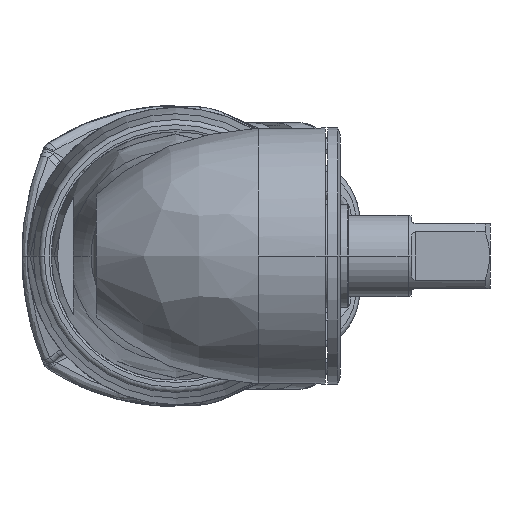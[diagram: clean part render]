
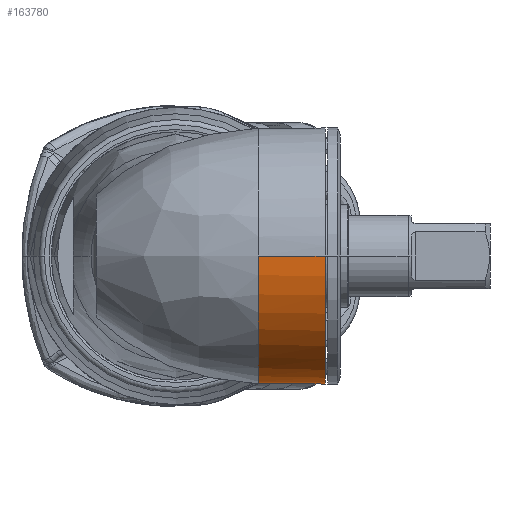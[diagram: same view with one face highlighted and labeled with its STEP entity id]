
A CAD part, left-side view. The second image highlights one B-rep face of the part: STEP entity #163780.
In plain terms, the highlighted cylindrical face has radius 25 mm (diameter 50 mm), a partial arc.
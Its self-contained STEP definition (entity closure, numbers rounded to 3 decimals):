
#162538=CARTESIAN_POINT('',(-149.53,-16.139,
-11.837));
#162607=CARTESIAN_POINT('',(-146.55,-21.5,
0.));
#162609=DIRECTION('',(0.,-1.,0.));
#162610=VECTOR('',#162609,7.7);
#162611=CARTESIAN_POINT('',(-146.55,-21.5,
0.));
#162612=LINE('',#162611,#162610);
#162639=DIRECTION('',(0.,-1.,0.));
#162640=VECTOR('',#162639,13.061);
#162641=CARTESIAN_POINT('',(-196.55,-16.139,0.));
#162642=LINE('',#162641,#162640);
#162668=CARTESIAN_POINT('',(-196.55,-16.139,0.));
#162669=CARTESIAN_POINT('',(-196.55,-16.139,-1.051));
#162670=CARTESIAN_POINT('',(-196.417,-16.139,
-3.153));
#162671=CARTESIAN_POINT('',(-195.823,-16.139,
-6.255));
#162672=CARTESIAN_POINT('',(-194.844,-16.139,
-9.259));
#162673=CARTESIAN_POINT('',(-193.494,-16.139,
-12.115));
#162674=CARTESIAN_POINT('',(-191.796,-16.139,
-14.779));
#162675=CARTESIAN_POINT('',(-189.776,-16.139,
-17.208));
#162676=CARTESIAN_POINT('',(-187.467,-16.139,
-19.364));
#162677=CARTESIAN_POINT('',(-184.905,-16.139,
-21.212));
#162678=CARTESIAN_POINT('',(-182.131,-16.139,
-22.724));
#162679=CARTESIAN_POINT('',(-179.189,-16.139,
-23.874));
#162680=CARTESIAN_POINT('',(-176.126,-16.139,
-24.645));
#162681=CARTESIAN_POINT('',(-172.99,-16.139,
-25.025));
#162682=CARTESIAN_POINT('',(-169.831,-16.139,
-25.007));
#162683=CARTESIAN_POINT('',(-166.699,-16.139,
-24.592));
#162684=CARTESIAN_POINT('',(-163.644,-16.139,
-23.787));
#162685=CARTESIAN_POINT('',(-160.715,-16.139,
-22.604));
#162686=CARTESIAN_POINT('',(-157.958,-16.139,
-21.061));
#162687=CARTESIAN_POINT('',(-155.417,-16.139,
-19.185));
#162688=CARTESIAN_POINT('',(-153.132,-16.139,
-17.003));
#162689=CARTESIAN_POINT('',(-151.14,-16.138,
-14.551));
#162690=CARTESIAN_POINT('',(-150.028,-16.139,
-12.763));
#162691=CARTESIAN_POINT('',(-149.53,-16.139,
-11.837));
#162693=CARTESIAN_POINT('',(-196.55,-29.2,0.));
#162694=CARTESIAN_POINT('',(-196.55,-29.2,-1.158));
#162695=CARTESIAN_POINT('',(-196.389,-29.2,
-3.489));
#162696=CARTESIAN_POINT('',(-195.648,-29.2,
-6.969));
#162697=CARTESIAN_POINT('',(-194.409,-29.2,
-10.333));
#162698=CARTESIAN_POINT('',(-192.697,-29.2,
-13.495));
#162699=CARTESIAN_POINT('',(-190.556,-29.2,
-16.373));
#162700=CARTESIAN_POINT('',(-188.027,-29.2,
-18.915));
#162701=CARTESIAN_POINT('',(-185.157,-29.2,
-21.075));
#162702=CARTESIAN_POINT('',(-182.006,-29.2,
-22.803));
#162703=CARTESIAN_POINT('',(-178.643,-29.2,
-24.062));
#162704=CARTESIAN_POINT('',(-175.134,-29.2,
-24.828));
#162705=CARTESIAN_POINT('',(-171.551,-29.2,
-25.086));
#162706=CARTESIAN_POINT('',(-167.968,-29.2,
-24.829));
#162707=CARTESIAN_POINT('',(-164.459,-29.2,
-24.063));
#162708=CARTESIAN_POINT('',(-161.095,-29.2,
-22.803));
#162709=CARTESIAN_POINT('',(-157.944,-29.2,
-21.076));
#162710=CARTESIAN_POINT('',(-155.074,-29.2,
-18.916));
#162711=CARTESIAN_POINT('',(-152.546,-29.2,
-16.374));
#162712=CARTESIAN_POINT('',(-150.404,-29.2,
-13.496));
#162713=CARTESIAN_POINT('',(-148.692,-29.2,
-10.335));
#162714=CARTESIAN_POINT('',(-147.453,-29.2,
-6.97));
#162715=CARTESIAN_POINT('',(-146.711,-29.2,
-3.49));
#162716=CARTESIAN_POINT('',(-146.55,-29.2,-1.158));
#162717=CARTESIAN_POINT('',(-146.55,-29.2,0.));
#162719=CARTESIAN_POINT('',(-146.55,-21.5,
0.));
#162720=CARTESIAN_POINT('',(-146.55,-21.5,
-0.773));
#162721=CARTESIAN_POINT('',(-146.622,-21.38,
-2.337));
#162722=CARTESIAN_POINT('',(-146.959,-20.812,
-4.715));
#162723=CARTESIAN_POINT('',(-147.537,-19.819,
-7.105));
#162724=CARTESIAN_POINT('',(-148.381,-18.325,
-9.51));
#162725=CARTESIAN_POINT('',(-149.122,-16.94,
-11.079));
#162726=CARTESIAN_POINT('',(-149.53,-16.139,
-11.838));
#163322=VERTEX_POINT('',#162693);
#163323=VERTEX_POINT('',#162717);
#163324=CARTESIAN_POINT('',(-196.55,-16.139,0.));
#163325=VERTEX_POINT('',#163324);
#163326=VERTEX_POINT('',#162538);
#163331=VERTEX_POINT('',#162607);
#163767=CARTESIAN_POINT('',(-171.55,17.76,0.));
#163768=DIRECTION('',(0.,-1.,0.));
#163769=DIRECTION('',(-1.,0.,0.));
#163770=AXIS2_PLACEMENT_3D('',#163767,#163768,#163769);
#163771=CYLINDRICAL_SURFACE('',#163770,25.);
#163772=ORIENTED_EDGE('',*,*,#163547,.F.);
#163773=ORIENTED_EDGE('',*,*,#163754,.T.);
#163775=ORIENTED_EDGE('',*,*,#163774,.T.);
#163776=ORIENTED_EDGE('',*,*,#163750,.F.);
#163777=ORIENTED_EDGE('',*,*,#163682,.T.);
#163778=EDGE_LOOP('',(#163772,#163773,#163775,#163776,#163777));
#163779=FACE_OUTER_BOUND('',#163778,.F.);
#162692=B_SPLINE_CURVE_WITH_KNOTS('',3,(#162668,#162669,#162670,#162671,#162672,
#162673,#162674,#162675,#162676,#162677,#162678,#162679,#162680,#162681,#162682,
#162683,#162684,#162685,#162686,#162687,#162688,#162689,#162690,#162691),
.UNSPECIFIED.,.F.,.F.,(4,1,1,1,1,1,1,1,1,1,1,1,1,1,1,1,1,1,1,1,1,4),(0.,
0.048,0.095,0.143,0.19,
0.238,0.286,0.333,0.381,
0.429,0.476,0.524,0.571,
0.619,0.667,0.714,0.762,
0.81,0.857,0.905,0.952,1.),
.UNSPECIFIED.);
#162718=B_SPLINE_CURVE_WITH_KNOTS('',3,(#162693,#162694,#162695,#162696,#162697,
#162698,#162699,#162700,#162701,#162702,#162703,#162704,#162705,#162706,#162707,
#162708,#162709,#162710,#162711,#162712,#162713,#162714,#162715,#162716,
#162717),.UNSPECIFIED.,.F.,.F.,(4,1,1,1,1,1,1,1,1,1,1,1,1,1,1,1,1,1,1,1,1,1,4),(
0.,0.045,0.091,0.136,0.182,
0.227,0.273,0.318,0.364,
0.409,0.455,0.5,0.545,0.591,
0.636,0.682,0.727,0.773,
0.818,0.864,0.909,0.955,1.),
.UNSPECIFIED.);
#162727=B_SPLINE_CURVE_WITH_KNOTS('',3,(#162719,#162720,#162721,#162722,#162723,
#162724,#162725,#162726),.UNSPECIFIED.,.F.,.F.,(4,1,1,1,1,4),(0.,0.2,0.4,
0.6,0.8,1.),.UNSPECIFIED.);
#163547=EDGE_CURVE('',#163325,#163326,#162692,.T.);
#163682=EDGE_CURVE('',#163331,#163326,#162727,.T.);
#163750=EDGE_CURVE('',#163331,#163323,#162612,.T.);
#163754=EDGE_CURVE('',#163325,#163322,#162642,.T.);
#163774=EDGE_CURVE('',#163322,#163323,#162718,.T.);
#163780=ADVANCED_FACE('',(#163779),#163771,.T.);
